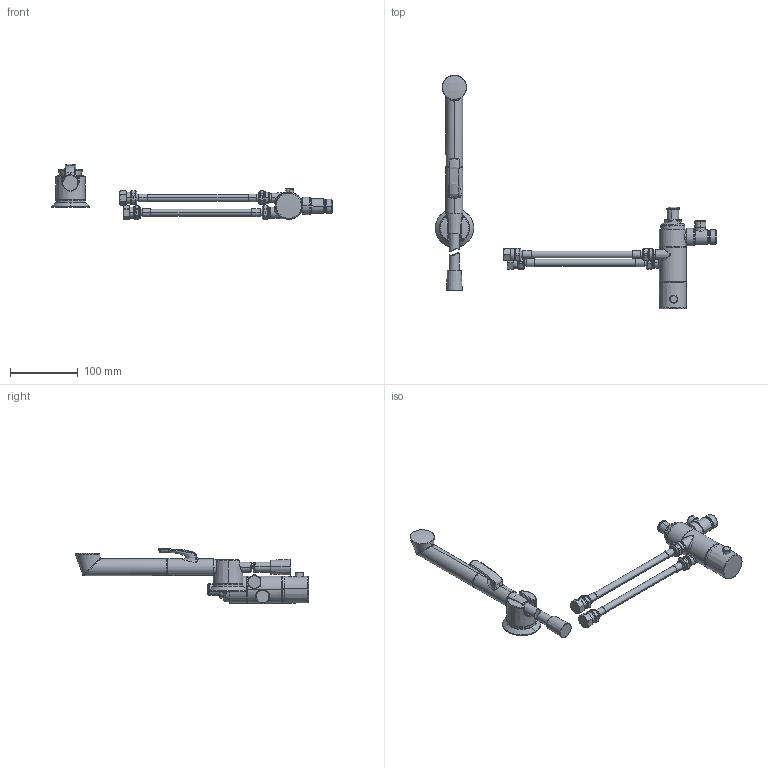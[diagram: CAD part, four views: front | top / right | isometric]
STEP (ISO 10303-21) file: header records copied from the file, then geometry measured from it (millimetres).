
FILE_DESCRIPTION (( 'STEP AP203' ), '1' );
FILE_NAME ('197096Z(2024).STEP', '2023-11-06T07:13:15', ( '' ), ( '' ), 'SwSTEP 2.0', 'SolidWorks 2016', '' );
FILE_SCHEMA (( 'CONFIG_CONTROL_DESIGN' ));
Length unit declared in the file: millimetre
Products named in the file (1): 197096Z(2024)
Bounding box: 416.27 x 345.37 x 82.76 mm (x, y, z)
Volume: 465097.3 mm3; surface area: 101299.1 mm2
Topology: 20 solids, 20 shells, 659 faces, 1591 edges, 1024 vertices
Faces by surface type: plane 191, cylinder 154, bspline 134, cone 123, torus 57
Entity records: 42981 total; most frequent: CARTESIAN_POINT 28557, ORIENTED_EDGE 3182, DIRECTION 2719, EDGE_CURVE 1591, AXIS2_PLACEMENT_3D 1133, VERTEX_POINT 1024, EDGE_LOOP 711, ADVANCED_FACE 659
